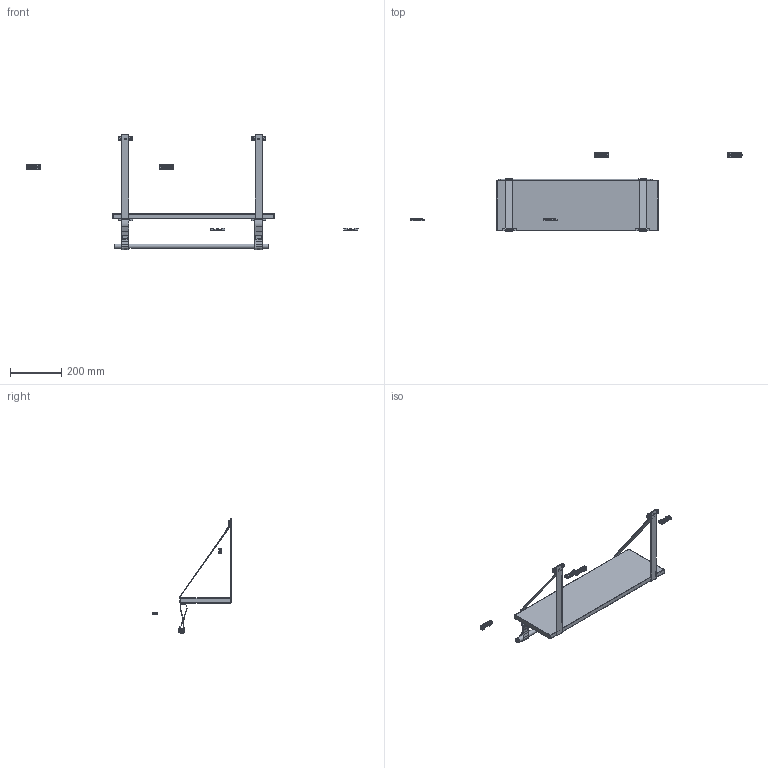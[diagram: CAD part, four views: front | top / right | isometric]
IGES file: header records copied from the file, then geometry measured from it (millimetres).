
Start section: C
Global section: file name: 8338.igs; native system: By Siemens PLM Incorporated; preprocessor: XPlus GENERIC/IGES 16.0.42; author: Author; organization: Title; date: 20220830.133333; units: millimetre
Bounding box: 1296.16 x 307.03 x 449.46 mm (x, y, z)
Surface area: 532174.4 mm2 (no closed solid volume)
Topology: 0 solids, 0 shells, 968 faces, 5562 edges, 5328 vertices
Faces by surface type: bspline 968
